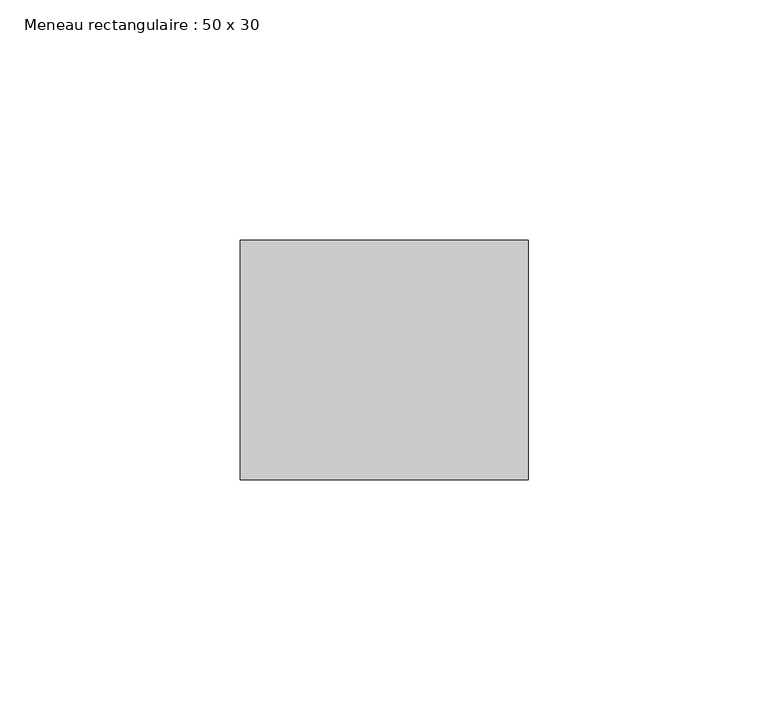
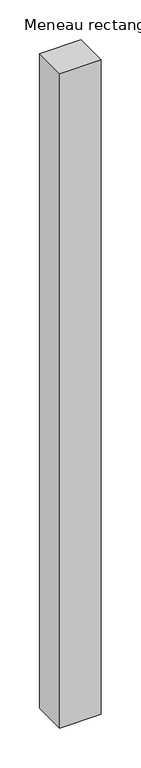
"""IFC4 building model written with IfcOpenShell, lengths in millimetres: member geometry, Meneau rectangulaire : 50 x 30."""

from ifc_helpers import new_model, si_unit, frame, origin, place, context, project, spatial, polyline, outline, extrude, source, transform, mapped, element, save


def meneau_rectangulaire_50_x_30_657dc5b5(model_context):
    return source(origin(), model_context, "Body", "SweptSolid", [
        extrude(outline(polyline([(0.0, 0.0), (0.0, -50.0), (-60.0, -50.0), (-60.0, 0.0), (0.0, 0.0)])), frame((0.0, 0.0, -1000.0), z_axis=(0.0, 0.0, 1.0), x_axis=(1.0, 0.0, 0.0)), (0.0, 0.0, 1.0), 1000.0),
    ])


if __name__ == "__main__":
    model = new_model("IFC4")
    model_context = context("Model", 3, world=origin())
    ifc_project = project(units=[si_unit("LENGTHUNIT", "METRE", prefix="MILLI")], contexts=[model_context])
    site = spatial("IfcSite", under=ifc_project)
    building = spatial("IfcBuilding", under=site)
    placement = place(None, origin())
    meneau_rectangulaire_50_x_30_shape = meneau_rectangulaire_50_x_30_657dc5b5(model_context)
    element("IfcMember", 1, ObjectType="Meneau rectangulaire : 50 x 30", at=placement, inside=building, context=model_context, shape_type="MappedRepresentation", body=[
        mapped(meneau_rectangulaire_50_x_30_shape, transform((0.0, 0.0, 0.0), x_axis=(1.0, 0.0, 0.0), y_axis=(0.0, 1.0, 0.0), z_axis=(0.0, 0.0, 1.0))),
    ])
    save(model, "model.ifc")
